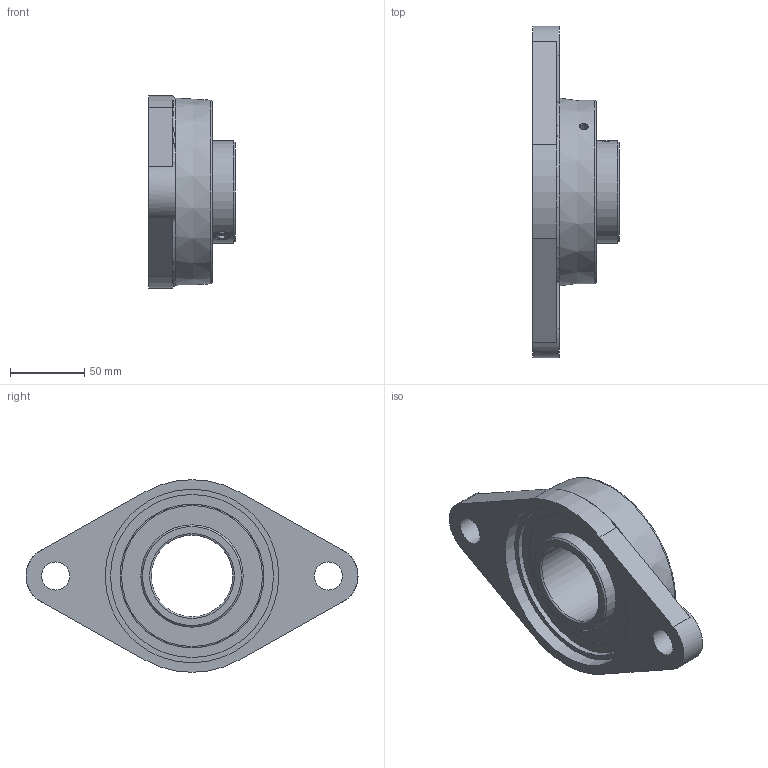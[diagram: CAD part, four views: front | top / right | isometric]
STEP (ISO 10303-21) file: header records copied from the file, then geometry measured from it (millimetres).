
FILE_DESCRIPTION (( 'STEP AP203' ), '1' );
FILE_NAME ('UCFL-211.STEP', '2019-03-08T12:12:17', ( '' ), ( '' ), 'SwSTEP 2.0', 'SolidWorks 2017', '' );
FILE_SCHEMA (( 'CONFIG_CONTROL_DESIGN' ));
Length unit declared in the file: millimetre
Products named in the file (1): UCFL-211
Bounding box: 58.4 x 224 x 130 mm (x, y, z)
Volume: 402591.3 mm3; surface area: 92047 mm2
Topology: 1 solids, 3 shells, 93 faces, 210 edges, 141 vertices
Faces by surface type: plane 43, cylinder 24, cone 10, torus 9, sphere 7
Full cylindrical faces by diameter (mm): 1.25 x4, 4.918 x1, 6 x1, 10 x2, 19 x2, 55 x1, 69 x4, 86.678 x2, 110 x2, 117 x1
Entity records: 2931 total; most frequent: CARTESIAN_POINT 1008, DIRECTION 384, ORIENTED_EDGE 304, AXIS2_PLACEMENT_3D 160, EDGE_LOOP 158, EDGE_CURVE 152, VERTEX_POINT 120, FACE_OUTER_BOUND 120
